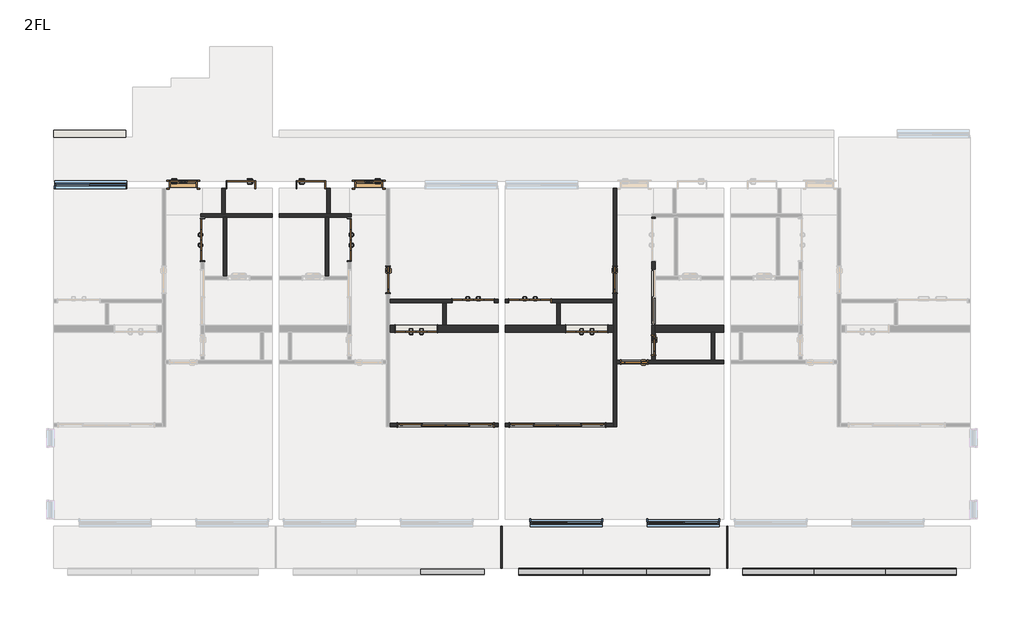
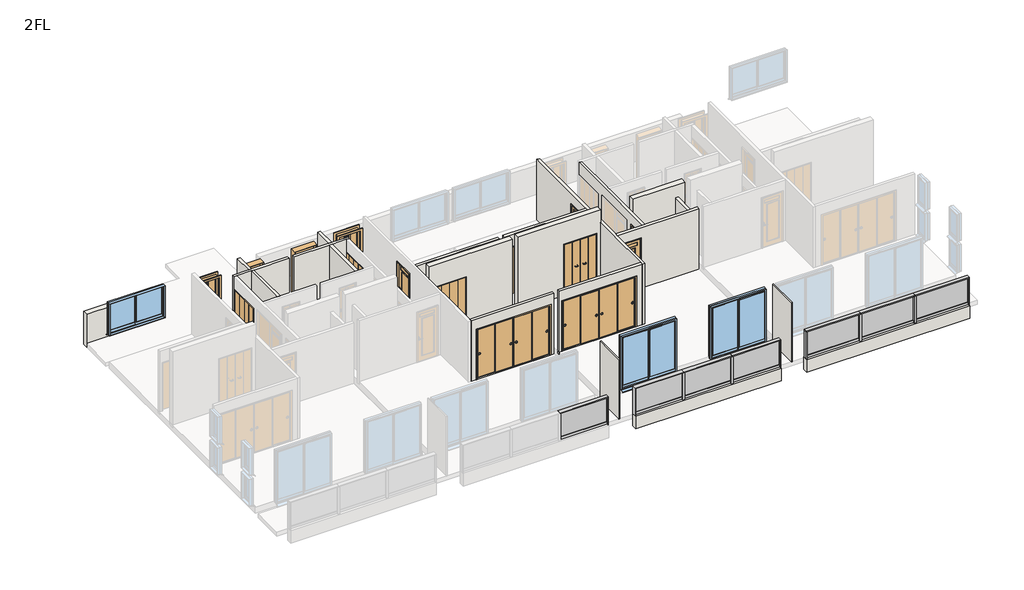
# One storey, part 2 of 3: 24 walls, 16 doors, 16 members, 7 plates, 3 windows.
"""IFC4 building model written with IfcOpenShell, lengths in millimetres."""

from ifc_helpers import new_model, si_unit, frame, origin, place, context, project, spatial, polyline, outline, extrude, faceted_brep, transform, mapped, element, save
from components import door_1200x2000_98cacc9b, door_1200x2000_6a144d60, door_1200x2000_ebe1d490, door_1200x2000_99d19fb3, door_2800x2000_670b855b, door_2800x2000_04aa64cd, door_600x2000_7f2747f4, door_800x2000_a7d1584b, door_800x2000_13e9f519, door_800x2000_ccb03061, door_800x2000_010bfebf, w800h2000_1d97c4d4, w800h2000_0ab7d42c, member_25x150_3f8205e2, member_25x150_e252ec85, member_25x150_8b8be5b9, member_25x150_69a01d83, member_25x150_4c9d34cf, member_70x150_851c8a9b, plate_5aac5250, plate_977e9fc7, plate_28239825, plate_ce56c4f8, window_2000x1200_fc91d1cf, window_2000x2000_f1ff98da

model = new_model("IFC4")

# Units and contexts
model_context = context("Model", 3, world=origin())
ifc_project = project(units=[si_unit("LENGTHUNIT", "METRE", prefix="MILLI")], contexts=[model_context])

# Site, building, storey
site = spatial("IfcSite", under=ifc_project)
building = spatial("IfcBuilding", under=site)
storey = spatial("IfcBuildingStorey", under=building, Name="2FL", Elevation=4000.0)

# Doors
placement = place(None, origin())
door_1200x2000_shape = door_1200x2000_98cacc9b(model_context)
element("IfcDoor", 1, ObjectType="木製折戸 : 1200x2000", at=placement, inside=storey, context=model_context, shape_type="MappedRepresentation", body=[
    mapped(door_1200x2000_shape, transform((4158.7812754, -9820.1171638, 4100.0), x_axis=(-1.0, 0.0, 0.0), y_axis=(0.0, -1.0, 0.0), z_axis=(0.0, 0.0, 1.0))),
])
door_1200x2000_2_shape = door_1200x2000_6a144d60(model_context)
element("IfcDoor", 2, ObjectType="木製折戸 : 1200x2000", at=placement, inside=storey, context=model_context, shape_type="MappedRepresentation", body=[
    mapped(door_1200x2000_2_shape, transform((-6828.7187246, -7280.1171638, 4000.0), x_axis=(0.0, 1.0, 0.0), y_axis=(-1.0, 0.0, 0.0), z_axis=(0.0, 0.0, 1.0))),
])
element("IfcDoor", 3, ObjectType="木製折戸 : 1200x2000", at=placement, inside=storey, context=model_context, shape_type="MappedRepresentation", body=[
    mapped(door_1200x2000_2_shape, transform((2533.7812754, -9020.1171638, 4000.0), x_axis=(1.0, 0.0, 0.0), y_axis=(0.0, 1.0, 0.0), z_axis=(0.0, 0.0, 1.0))),
])
door_1200x2000_3_shape = door_1200x2000_ebe1d490(model_context)
element("IfcDoor", 4, ObjectType="木製折戸 : 1200x2000", at=placement, inside=storey, context=model_context, shape_type="MappedRepresentation", body=[
    mapped(door_1200x2000_3_shape, transform((-716.2187246, -9820.1171638, 4100.0), x_axis=(1.0, 0.0, 0.0), y_axis=(0.0, 1.0, 0.0), z_axis=(0.0, 0.0, 1.0))),
])
door_1200x2000_4_shape = door_1200x2000_99d19fb3(model_context)
element("IfcDoor", 5, ObjectType="木製折戸 : 1200x2000", at=placement, inside=storey, context=model_context, shape_type="MappedRepresentation", body=[
    mapped(door_1200x2000_4_shape, transform((-2628.7187246, -7280.1171638, 4000.0), x_axis=(0.0, 1.0, 0.0), y_axis=(-1.0, 0.0, 0.0), z_axis=(0.0, 0.0, 1.0))),
])
element("IfcDoor", 6, ObjectType="木製折戸 : 1200x2000", at=placement, inside=storey, context=model_context, shape_type="MappedRepresentation", body=[
    mapped(door_1200x2000_4_shape, transform((908.7812754, -9020.1171638, 4000.0), x_axis=(-1.0, 0.0, 0.0), y_axis=(0.0, -1.0, 0.0), z_axis=(0.0, 0.0, 1.0))),
])
door_2800x2000_shape = door_2800x2000_670b855b(model_context)
element("IfcDoor", 7, ObjectType="引違い 4 枚 2 溝_襖 : 2800x2000", at=placement, inside=storey, context=model_context, shape_type="MappedRepresentation", body=[
    mapped(door_2800x2000_shape, transform((3326.8167793, -12570.1171638, 4100.0), x_axis=(1.0, 0.0, 0.0), y_axis=(0.0, 1.0, 0.0), z_axis=(0.0, 0.0, 1.0))),
])
door_2800x2000_2_shape = door_2800x2000_04aa64cd(model_context)
element("IfcDoor", 8, ObjectType="引違い 4 枚 2 溝_襖 : 2800x2000", at=placement, inside=storey, context=model_context, shape_type="MappedRepresentation", body=[
    mapped(door_2800x2000_2_shape, transform((115.7457714, -12570.1171638, 4100.0), x_axis=(-1.0, 0.0, 0.0), y_axis=(0.0, -1.0, 0.0), z_axis=(0.0, 0.0, 1.0))),
])
door_600x2000_shape = door_600x2000_7f2747f4(model_context)
element("IfcDoor", 9, ObjectType="片開き戸CL2058 : 600x2000", at=placement, inside=storey, context=model_context, shape_type="MappedRepresentation", body=[
    mapped(door_600x2000_shape, transform((6071.2812754, -10295.1171638, 4100.0), x_axis=(0.0, -1.0, 0.0), y_axis=(1.0, 0.0, 0.0), z_axis=(0.0, 0.0, 1.0))),
])
door_800x2000_shape = door_800x2000_a7d1584b(model_context)
element("IfcDoor", 10, ObjectType="片開き3 : 800x2000", at=placement, inside=storey, context=model_context, shape_type="MappedRepresentation", body=[
    mapped(door_800x2000_shape, transform((-7378.7187246, -5700.1171638, 4000.0), x_axis=(1.0, 0.0, 0.0), y_axis=(0.0, 1.0, 0.0), z_axis=(0.0, 0.0, 1.0))),
])
door_800x2000_2_shape = door_800x2000_13e9f519(model_context)
element("IfcDoor", 11, ObjectType="片開き戸CL2058 : 800x2000", at=placement, inside=storey, context=model_context, shape_type="MappedRepresentation", body=[
    mapped(door_800x2000_2_shape, transform((4971.2812754, -8420.1171638, 4100.0), x_axis=(0.0, -1.0, 0.0), y_axis=(1.0, 0.0, 0.0), z_axis=(0.0, 0.0, 1.0))),
])
door_800x2000_3_shape = door_800x2000_ccb03061(model_context)
element("IfcDoor", 12, ObjectType="片開き戸CL2058 : 800x2000", at=placement, inside=storey, context=model_context, shape_type="MappedRepresentation", body=[
    mapped(door_800x2000_3_shape, transform((-1528.7187246, -8420.1171638, 4100.0), x_axis=(0.0, -1.0, 0.0), y_axis=(1.0, 0.0, 0.0), z_axis=(0.0, 0.0, 1.0))),
])
element("IfcDoor", 13, ObjectType="片開き戸CL2058 : 800x2000", at=placement, inside=storey, context=model_context, shape_type="MappedRepresentation", body=[
    mapped(door_800x2000_3_shape, transform((5521.2812754, -10770.1171638, 4100.0), x_axis=(-1.0, 0.0, 0.0), y_axis=(0.0, -1.0, 0.0), z_axis=(0.0, 0.0, 1.0))),
])
door_800x2000_4_shape = door_800x2000_010bfebf(model_context)
element("IfcDoor", 14, ObjectType="片開き3 : 800x2000", at=placement, inside=storey, context=model_context, shape_type="MappedRepresentation", body=[
    mapped(door_800x2000_4_shape, transform((-2078.7187246, -5700.1171638, 4000.0), x_axis=(-1.0, 0.0, 0.0), y_axis=(0.0, -1.0, 0.0), z_axis=(0.0, 0.0, 1.0))),
])
w800h2000_shape = w800h2000_1d97c4d4(model_context)
element("IfcDoor", 15, ObjectType="片開き : w800h2000", at=placement, inside=storey, context=model_context, shape_type="MappedRepresentation", body=[
    mapped(w800h2000_shape, transform((-5728.7187246, -5700.1171638, 4000.0), x_axis=(-1.0, 0.0, 0.0), y_axis=(0.0, -1.0, 0.0), z_axis=(0.0, 0.0, 1.0))),
])
w800h2000_2_shape = w800h2000_0ab7d42c(model_context)
element("IfcDoor", 16, ObjectType="片開き : w800h2000", at=placement, inside=storey, context=model_context, shape_type="MappedRepresentation", body=[
    mapped(w800h2000_2_shape, transform((-3728.7187246, -5700.1171638, 4000.0), x_axis=(1.0, 0.0, 0.0), y_axis=(0.0, 1.0, 0.0), z_axis=(0.0, 0.0, 1.0))),
])

# Members
member_25x150_shape = member_25x150_3f8205e2(model_context)
element("IfcMember", 17, ObjectType="長方形のマリオン : 25x150", at=placement, inside=storey, context=model_context, shape_type="MappedRepresentation", body=[
    mapped(member_25x150_shape, transform((1221.2812754, -16770.1171638, 4000.0), x_axis=(1.0, 0.0, 0.0), y_axis=(0.0, -1.0, 0.0), z_axis=(0.0, 0.0, -1.0))),
])
element("IfcMember", 18, ObjectType="長方形のマリオン : 25x150", at=placement, inside=storey, context=model_context, shape_type="MappedRepresentation", body=[
    mapped(member_25x150_shape, transform((7671.2812754, -16770.1171638, 4000.0), x_axis=(1.0, 0.0, 0.0), y_axis=(0.0, -1.0, 0.0), z_axis=(0.0, 0.0, -1.0))),
])
element("IfcMember", 19, ObjectType="長方形のマリオン : 25x150", at=placement, inside=storey, context=model_context, shape_type="MappedRepresentation", body=[
    mapped(member_25x150_shape, transform((14721.2812754, -16770.1171638, 4000.0), x_axis=(1.0, 0.0, 0.0), y_axis=(0.0, -1.0, 0.0), z_axis=(0.0, 0.0, -1.0))),
])
element("IfcMember", 20, ObjectType="長方形のマリオン : 25x150", at=placement, inside=storey, context=model_context, shape_type="MappedRepresentation", body=[
    mapped(member_25x150_shape, transform((2221.2812754, -16770.1171638, 5075.0), x_axis=(-1.0, 0.0, 0.0), y_axis=(0.0, -1.0, 0.0), z_axis=(0.0, 0.0, 1.0))),
])
element("IfcMember", 21, ObjectType="長方形のマリオン : 25x150", at=placement, inside=storey, context=model_context, shape_type="MappedRepresentation", body=[
    mapped(member_25x150_shape, transform((8621.2812754, -16770.1171638, 5075.0), x_axis=(-1.0, 0.0, 0.0), y_axis=(0.0, -1.0, 0.0), z_axis=(0.0, 0.0, 1.0))),
])
member_25x150_2_shape = member_25x150_e252ec85(model_context)
element("IfcMember", 22, ObjectType="長方形のマリオン : 25x150", at=placement, inside=storey, context=model_context, shape_type="MappedRepresentation", body=[
    mapped(member_25x150_2_shape, transform((1221.2812754, -16770.1171638, 5100.0), x_axis=(0.0, 0.0, 1.0), y_axis=(0.0, -1.0, 0.0), z_axis=(1.0, 0.0, 0.0))),
])
element("IfcMember", 23, ObjectType="長方形のマリオン : 25x150", at=placement, inside=storey, context=model_context, shape_type="MappedRepresentation", body=[
    mapped(member_25x150_2_shape, transform((7671.2812754, -16770.1171638, 5100.0), x_axis=(0.0, 0.0, 1.0), y_axis=(0.0, -1.0, 0.0), z_axis=(1.0, 0.0, 0.0))),
])
element("IfcMember", 24, ObjectType="長方形のマリオン : 25x150", at=placement, inside=storey, context=model_context, shape_type="MappedRepresentation", body=[
    mapped(member_25x150_2_shape, transform((4037.9479421, -16770.1171638, 5100.0), x_axis=(0.0, 0.0, 1.0), y_axis=(0.0, -1.0, 0.0), z_axis=(1.0, 0.0, 0.0))),
])
member_25x150_3_shape = member_25x150_8b8be5b9(model_context)
element("IfcMember", 25, ObjectType="長方形のマリオン : 25x150", at=placement, inside=storey, context=model_context, shape_type="MappedRepresentation", body=[
    mapped(member_25x150_3_shape, transform((5854.6146086, -16770.1171638, 5100.0), x_axis=(0.0, 0.0, 1.0), y_axis=(0.0, -1.0, 0.0), z_axis=(1.0, 0.0, 0.0))),
])
member_25x150_4_shape = member_25x150_69a01d83(model_context)
element("IfcMember", 26, ObjectType="長方形のマリオン : 25x150", at=placement, inside=storey, context=model_context, shape_type="MappedRepresentation", body=[
    mapped(member_25x150_4_shape, transform((14721.2812754, -16770.1171638, 5100.0), x_axis=(0.0, 0.0, 1.0), y_axis=(0.0, -1.0, 0.0), z_axis=(1.0, 0.0, 0.0))),
])
element("IfcMember", 27, ObjectType="長方形のマリオン : 25x150", at=placement, inside=storey, context=model_context, shape_type="MappedRepresentation", body=[
    mapped(member_25x150_4_shape, transform((10654.6146088, -16770.1171638, 5100.0), x_axis=(0.0, 0.0, 1.0), y_axis=(0.0, -1.0, 0.0), z_axis=(1.0, 0.0, 0.0))),
])
member_25x150_5_shape = member_25x150_4c9d34cf(model_context)
element("IfcMember", 28, ObjectType="長方形のマリオン : 25x150", at=placement, inside=storey, context=model_context, shape_type="MappedRepresentation", body=[
    mapped(member_25x150_5_shape, transform((12687.9479419, -16770.1171638, 5100.0), x_axis=(0.0, 0.0, 1.0), y_axis=(0.0, -1.0, 0.0), z_axis=(1.0, 0.0, 0.0))),
])
member_70x150_shape = member_70x150_851c8a9b(model_context)
element("IfcMember", 29, ObjectType="長方形のマリオン : 70x150", at=placement, inside=storey, context=model_context, shape_type="MappedRepresentation", body=[
    mapped(member_70x150_shape, transform((4037.9479421, -16770.1171638, 4000.0), x_axis=(1.0, 0.0, 0.0), y_axis=(0.0, -1.0, 0.0), z_axis=(0.0, 0.0, -1.0))),
])
element("IfcMember", 30, ObjectType="長方形のマリオン : 70x150", at=placement, inside=storey, context=model_context, shape_type="MappedRepresentation", body=[
    mapped(member_70x150_shape, transform((5854.6146086, -16770.1171638, 4000.0), x_axis=(1.0, 0.0, 0.0), y_axis=(0.0, -1.0, 0.0), z_axis=(0.0, 0.0, -1.0))),
])
element("IfcMember", 31, ObjectType="長方形のマリオン : 70x150", at=placement, inside=storey, context=model_context, shape_type="MappedRepresentation", body=[
    mapped(member_70x150_shape, transform((10654.6146088, -16770.1171638, 4000.0), x_axis=(1.0, 0.0, 0.0), y_axis=(0.0, -1.0, 0.0), z_axis=(0.0, 0.0, -1.0))),
])
element("IfcMember", 32, ObjectType="長方形のマリオン : 70x150", at=placement, inside=storey, context=model_context, shape_type="MappedRepresentation", body=[
    mapped(member_70x150_shape, transform((12687.9479419, -16770.1171638, 4000.0), x_axis=(1.0, 0.0, 0.0), y_axis=(0.0, -1.0, 0.0), z_axis=(0.0, 0.0, -1.0))),
])

# Plates
plate_shape = plate_5aac5250(model_context)
element("IfcPlate", 33, ObjectType="r パネル FIX 下框付 : 框 H100", at=placement, inside=storey, context=model_context, shape_type="MappedRepresentation", body=[
    mapped(plate_shape, transform((317.947942, -16770.1171638, 4000.0), x_axis=(1.0, 0.0, 0.0), y_axis=(0.0, 1.0, 0.0), z_axis=(0.0, 0.0, 1.0))),
])
element("IfcPlate", 34, ObjectType="r パネル FIX 下框付 : 框 H100", at=placement, inside=storey, context=model_context, shape_type="MappedRepresentation", body=[
    mapped(plate_shape, transform((3124.6146087, -16770.1171638, 4000.0), x_axis=(1.0, 0.0, 0.0), y_axis=(0.0, 1.0, 0.0), z_axis=(0.0, 0.0, 1.0))),
])
element("IfcPlate", 35, ObjectType="r パネル FIX 下框付 : 框 H100", at=placement, inside=storey, context=model_context, shape_type="MappedRepresentation", body=[
    mapped(plate_shape, transform((6767.947942, -16770.1171638, 4000.0), x_axis=(1.0, 0.0, 0.0), y_axis=(0.0, 1.0, 0.0), z_axis=(0.0, 0.0, 1.0))),
])
plate_2_shape = plate_977e9fc7(model_context)
element("IfcPlate", 36, ObjectType="r パネル FIX 下框付 : 框 H100", at=placement, inside=storey, context=model_context, shape_type="MappedRepresentation", body=[
    mapped(plate_2_shape, transform((4946.2812754, -16770.1171638, 4000.0), x_axis=(1.0, 0.0, 0.0), y_axis=(0.0, 1.0, 0.0), z_axis=(0.0, 0.0, 1.0))),
])
plate_3_shape = plate_28239825(model_context)
element("IfcPlate", 37, ObjectType="r パネル FIX 下框付 : 框 H100", at=placement, inside=storey, context=model_context, shape_type="MappedRepresentation", body=[
    mapped(plate_3_shape, transform((9632.9479421, -16770.1171638, 4000.0), x_axis=(1.0, 0.0, 0.0), y_axis=(0.0, 1.0, 0.0), z_axis=(0.0, 0.0, 1.0))),
])
element("IfcPlate", 38, ObjectType="r パネル FIX 下框付 : 框 H100", at=placement, inside=storey, context=model_context, shape_type="MappedRepresentation", body=[
    mapped(plate_3_shape, transform((13709.6146086, -16770.1171638, 4000.0), x_axis=(1.0, 0.0, 0.0), y_axis=(0.0, 1.0, 0.0), z_axis=(0.0, 0.0, 1.0))),
])
plate_4_shape = plate_ce56c4f8(model_context)
element("IfcPlate", 39, ObjectType="r パネル FIX 下框付 : 框 H100", at=placement, inside=storey, context=model_context, shape_type="MappedRepresentation", body=[
    mapped(plate_4_shape, transform((11671.2812754, -16770.1171638, 4000.0), x_axis=(1.0, 0.0, 0.0), y_axis=(0.0, 1.0, 0.0), z_axis=(0.0, 0.0, 1.0))),
])

# Walls
element("IfcWall", 40, ObjectType="(R)RC200", at=placement, inside=storey, context=model_context, shape_type="Brep", body=[
    faceted_brep([(1621.2812754, -9720.1171638, 4000.0), (146.2812754, -9720.1171638, 4000.0), (46.2812754, -9720.1171638, 4000.0), (-1478.7187246, -9720.1171638, 4000.0), (-1478.7187246, -9720.1171638, 7000.0), (1621.2812754, -9720.1171638, 7000.0), (-96.2187246, -9720.1171638, 6120.0), (-1336.2187246, -9720.1171638, 6120.0), (-1336.2187246, -9720.1171638, 4100.0), (-96.2187246, -9720.1171638, 4100.0), (1621.2812754, -9920.1171638, 4000.0), (1621.2812754, -9920.1171638, 7000.0), (-1478.7187246, -9920.1171638, 7000.0), (-1478.7187246, -9920.1171638, 4000.0), (-96.2187246, -9920.1171638, 6120.0), (-96.2187246, -9920.1171638, 4100.0), (-1336.2187246, -9920.1171638, 4100.0), (-1336.2187246, -9920.1171638, 6120.0)], [[[0, 1, 2, 3, 4, 5], [6, 7, 8, 9]], [[10, 11, 12, 13], [14, 15, 16, 17]], [[3, 2, 1, 0, 10, 13]], [[5, 4, 12, 11]], [[15, 14, 6, 9]], [[16, 15, 9, 8]], [[17, 16, 8, 7]], [[14, 17, 7, 6]], [[4, 3, 13, 12]], [[0, 5, 11, 10]]]),
])
element("IfcWall", 41, ObjectType="(R)RC200", at=placement, inside=storey, context=model_context, shape_type="Brep", body=[
    faceted_brep([(1821.2812754, -9920.1171638, 4000.0), (4921.2812754, -9920.1171638, 4000.0), (4921.2812754, -9920.1171638, 7000.0), (1821.2812754, -9920.1171638, 7000.0), (3538.7812754, -9920.1171638, 6120.0), (4778.7812754, -9920.1171638, 6120.0), (4778.7812754, -9920.1171638, 4100.0), (3538.7812754, -9920.1171638, 4100.0), (1821.2812754, -9720.1171638, 4000.0), (1821.2812754, -9720.1171638, 7000.0), (4921.2812754, -9720.1171638, 7000.0), (4921.2812754, -9720.1171638, 4000.0), (3396.2812754, -9720.1171638, 4000.0), (3296.2812754, -9720.1171638, 4000.0), (3538.7812754, -9720.1171638, 6120.0), (3538.7812754, -9720.1171638, 4100.0), (4778.7812754, -9720.1171638, 4100.0), (4778.7812754, -9720.1171638, 6120.0)], [[[0, 1, 2, 3], [4, 5, 6, 7]], [[8, 9, 10, 11, 12, 13], [14, 15, 16, 17]], [[1, 0, 8, 13, 12, 11]], [[3, 2, 10, 9]], [[15, 14, 4, 7]], [[16, 15, 7, 6]], [[17, 16, 6, 5]], [[14, 17, 5, 4]], [[2, 1, 11, 10]], [[0, 3, 9, 8]]]),
])
element("IfcWall", 42, ObjectType="(R)RC200", at=placement, inside=storey, context=model_context, shape_type="Brep", body=[
    faceted_brep([(6121.2812754, -9920.1171638, 4000.0), (7721.2812754, -9920.1171638, 4000.0), (7821.2812754, -9920.1171638, 4000.0), (8071.2812754, -9920.1171638, 4000.0), (8071.2812754, -9920.1171638, 7000.0), (6121.2812754, -9920.1171638, 7000.0), (6121.2812754, -9720.1171638, 4000.0), (6121.2812754, -9720.1171638, 4100.0), (6121.2812754, -9720.1171638, 6100.0), (6121.2812754, -9720.1171638, 7000.0), (8071.2812754, -9720.1171638, 7000.0), (8071.2812754, -9720.1171638, 4000.0)], [[[0, 1, 2, 3, 4, 5]], [[6, 7, 8, 9, 10, 11]], [[3, 2, 1, 0, 6, 11]], [[5, 4, 10, 9]], [[0, 5, 9, 8, 7, 6]], [[4, 3, 11, 10]]]),
])
element("IfcWall", 43, ObjectType="(R)RC200", at=placement, inside=storey, context=model_context, shape_type="Brep", body=[
    faceted_brep([(-11078.7187246, -4350.1171638, 3800.0), (-9028.7187246, -4350.1171638, 3800.0), (-9028.7187246, -4350.1171638, 5068.2352941), (-9028.7187246, -4350.1171638, 5100.0), (-11078.7187246, -4350.1171638, 5100.0), (-11078.7187246, -4150.1171638, 3800.0), (-11078.7187246, -4150.1171638, 5100.0), (-9028.7187246, -4150.1171638, 5100.0), (-9028.7187246, -4150.1171638, 3800.0)], [[[0, 1, 2, 3, 4]], [[5, 6, 7, 8]], [[1, 0, 5, 8]], [[4, 3, 7, 6]], [[0, 4, 6, 5]], [[3, 2, 1, 8, 7]]]),
])
element("IfcWall", 44, ObjectType="(R)RC200", at=placement, inside=storey, context=model_context, shape_type="SweptSolid", body=[
    extrude(outline(polyline([(7671.2812754, -16870.1171638), (2221.2812754, -16870.1171638), (2221.2812754, -16670.1171638), (7671.2812754, -16670.1171638), (7671.2812754, -16870.1171638)])), frame((0.0, 0.0, 3500.0), z_axis=(0.0, 0.0, 1.0), x_axis=(1.0, 0.0, 0.0)), (0.0, 0.0, 1.0), 500.0),
])
element("IfcWall", 45, ObjectType="(R)RC200", at=placement, inside=storey, context=model_context, shape_type="SweptSolid", body=[
    extrude(outline(polyline([(14721.2812754, -16870.1171638), (8621.2812754, -16870.1171638), (8621.2812754, -16670.1171638), (14721.2812754, -16670.1171638), (14721.2812754, -16870.1171638)])), frame((0.0, 0.0, 3500.0), z_axis=(0.0, 0.0, 1.0), x_axis=(1.0, 0.0, 0.0)), (0.0, 0.0, 1.0), 500.0),
])
element("IfcWall", 46, ObjectType="(F)30", at=placement, inside=storey, context=model_context, shape_type="SweptSolid", body=[
    extrude(outline(polyline([(1706.2812754, -16670.1171638), (1706.2812754, -15470.1171638), (1736.2812754, -15470.1171638), (1736.2812754, -16670.1171638), (1706.2812754, -16670.1171638)])), frame((0.0, 0.0, 3950.0), z_axis=(0.0, 0.0, 1.0), x_axis=(1.0, 0.0, 0.0)), (0.0, 0.0, 1.0), 2350.0),
])
element("IfcWall", 47, ObjectType="(F)30", at=placement, inside=storey, context=model_context, shape_type="SweptSolid", body=[
    extrude(outline(polyline([(8156.2812754, -16670.1171638), (8156.2812754, -15470.1171638), (8186.2812754, -15470.1171638), (8186.2812754, -16670.1171638), (8156.2812754, -16670.1171638)])), frame((0.0, 0.0, 3950.0), z_axis=(0.0, 0.0, 1.0), x_axis=(1.0, 0.0, 0.0)), (0.0, 0.0, 1.0), 2350.0),
])
element("IfcWall", 48, ObjectType="(L1)LGS100", at=placement, inside=storey, context=model_context, shape_type="Brep", body=[
    faceted_brep([(-6878.7187246, -6630.1171638, 4000.0), (-6778.7187246, -6630.1171638, 4000.0), (-6238.7187246, -6630.1171638, 4000.0), (-6138.7187246, -6630.1171638, 4000.0), (-4828.7187246, -6630.1171638, 4000.0), (-4828.7187246, -6630.1171638, 6500.0), (-6138.7187246, -6630.1171638, 6500.0), (-6238.7187246, -6630.1171638, 6500.0), (-6778.7187246, -6630.1171638, 6500.0), (-6878.7187246, -6630.1171638, 6500.0), (-6878.7187246, -6530.1171638, 4000.0), (-6878.7187246, -6530.1171638, 6500.0), (-6278.7187246, -6530.1171638, 6500.0), (-6178.7187246, -6530.1171638, 6500.0), (-4828.7187246, -6530.1171638, 6500.0), (-4828.7187246, -6530.1171638, 4000.0), (-6178.7187246, -6530.1171638, 4000.0), (-6278.7187246, -6530.1171638, 4000.0)], [[[0, 1, 2, 3, 4, 5, 6, 7, 8, 9]], [[10, 11, 12, 13, 14, 15, 16, 17]], [[4, 3, 2, 1, 0, 10, 17, 16, 15]], [[9, 8, 7, 6, 5, 14, 13, 12, 11]], [[0, 9, 11, 10]], [[5, 4, 15, 14]]]),
])
element("IfcWall", 49, ObjectType="(L1)LGS100", at=placement, inside=storey, context=model_context, shape_type="SweptSolid", body=[
    extrude(outline(polyline([(-6178.7187246, -5800.1171638), (-6178.7187246, -6530.1171638), (-6278.7187246, -6530.1171638), (-6278.7187246, -5800.1171638), (-6178.7187246, -5800.1171638)])), frame((0.0, 0.0, 4000.0), z_axis=(0.0, 0.0, 1.0), x_axis=(1.0, 0.0, 0.0)), (0.0, 0.0, 1.0), 2500.0),
])
element("IfcWall", 50, ObjectType="(L1)LGS100", at=placement, inside=storey, context=model_context, shape_type="SweptSolid", body=[
    extrude(outline(polyline([(-6138.7187246, -6630.1171638), (-6138.7187246, -8320.1171638), (-6238.7187246, -8320.1171638), (-6238.7187246, -6630.1171638), (-6138.7187246, -6630.1171638)])), frame((0.0, 0.0, 4000.0), z_axis=(0.0, 0.0, 1.0), x_axis=(1.0, 0.0, 0.0)), (0.0, 0.0, 1.0), 2500.0),
])
element("IfcWall", 51, ObjectType="(L1)LGS100", at=placement, inside=storey, context=model_context, shape_type="Brep", body=[
    faceted_brep([(-2578.7187246, -6530.1171638, 4000.0), (-3178.7187246, -6530.1171638, 4000.0), (-3278.7187246, -6530.1171638, 4000.0), (-4628.7187246, -6530.1171638, 4000.0), (-4628.7187246, -6530.1171638, 6500.0), (-3278.7187246, -6530.1171638, 6500.0), (-3178.7187246, -6530.1171638, 6500.0), (-2578.7187246, -6530.1171638, 6500.0), (-2578.7187246, -6630.1171638, 4000.0), (-2578.7187246, -6630.1171638, 6500.0), (-2678.7187246, -6630.1171638, 6500.0), (-3218.7187246, -6630.1171638, 6500.0), (-3318.7187246, -6630.1171638, 6500.0), (-4628.7187246, -6630.1171638, 6500.0), (-4628.7187246, -6630.1171638, 4000.0), (-3318.7187246, -6630.1171638, 4000.0), (-3218.7187246, -6630.1171638, 4000.0), (-2678.7187246, -6630.1171638, 4000.0)], [[[0, 1, 2, 3, 4, 5, 6, 7]], [[8, 9, 10, 11, 12, 13, 14, 15, 16, 17]], [[3, 2, 1, 0, 8, 17, 16, 15, 14]], [[7, 6, 5, 4, 13, 12, 11, 10, 9]], [[0, 7, 9, 8]], [[4, 3, 14, 13]]]),
])
element("IfcWall", 52, ObjectType="(L1)LGS100", at=placement, inside=storey, context=model_context, shape_type="SweptSolid", body=[
    extrude(outline(polyline([(-3178.7187246, -5800.1171638), (-3178.7187246, -6530.1171638), (-3278.7187246, -6530.1171638), (-3278.7187246, -5800.1171638), (-3178.7187246, -5800.1171638)])), frame((0.0, 0.0, 4000.0), z_axis=(0.0, 0.0, 1.0), x_axis=(1.0, 0.0, 0.0)), (0.0, 0.0, 1.0), 2500.0),
])
element("IfcWall", 53, ObjectType="(L1)LGS100", at=placement, inside=storey, context=model_context, shape_type="SweptSolid", body=[
    extrude(outline(polyline([(-3218.7187246, -6630.1171638), (-3218.7187246, -8320.1171638), (-3318.7187246, -8320.1171638), (-3318.7187246, -6630.1171638), (-3218.7187246, -6630.1171638)])), frame((0.0, 0.0, 4000.0), z_axis=(0.0, 0.0, 1.0), x_axis=(1.0, 0.0, 0.0)), (0.0, 0.0, 1.0), 2500.0),
])
element("IfcWall", 54, ObjectType="(L1)LGS100", at=placement, inside=storey, context=model_context, shape_type="Brep", body=[
    faceted_brep([(1621.2812754, -8970.1171638, 4000.0), (1528.7812754, -8970.1171638, 4000.0), (1528.7812754, -8970.1171638, 6020.0), (288.7812754, -8970.1171638, 6020.0), (288.7812754, -8970.1171638, 4000.0), (-1478.7187246, -8970.1171638, 4000.0), (-1478.7187246, -8970.1171638, 6500.0), (1621.2812754, -8970.1171638, 6500.0), (1528.7812754, -9070.1171638, 6020.0), (1528.7812754, -9070.1171638, 4000.0), (1621.2812754, -9070.1171638, 4000.0), (1621.2812754, -9070.1171638, 6500.0), (146.2812754, -9070.1171638, 6500.0), (46.2812754, -9070.1171638, 6500.0), (-1478.7187246, -9070.1171638, 6500.0), (-1478.7187246, -9070.1171638, 4000.0), (46.2812754, -9070.1171638, 4000.0), (146.2812754, -9070.1171638, 4000.0), (288.7812754, -9070.1171638, 4000.0), (288.7812754, -9070.1171638, 6020.0)], [[[0, 1, 2, 3, 4, 5, 6, 7]], [[8, 9, 10, 11, 12, 13, 14, 15, 16, 17, 18, 19]], [[10, 9, 1, 0]], [[18, 17, 16, 15, 5, 4]], [[7, 6, 14, 13, 12, 11]], [[4, 3, 19, 18]], [[2, 1, 9, 8]], [[3, 2, 8, 19]], [[6, 5, 15, 14]], [[0, 7, 11, 10]]]),
])
element("IfcWall", 55, ObjectType="(L1)LGS100", at=placement, inside=storey, context=model_context, shape_type="SweptSolid", body=[
    extrude(outline(polyline([(146.2812754, -9070.1171638), (146.2812754, -9720.1171638), (46.2812754, -9720.1171638), (46.2812754, -9070.1171638), (146.2812754, -9070.1171638)])), frame((0.0, 0.0, 4000.0), z_axis=(0.0, 0.0, 1.0), x_axis=(1.0, 0.0, 0.0)), (0.0, 0.0, 1.0), 2500.0),
])
element("IfcWall", 56, ObjectType="(L1)LGS100", at=placement, inside=storey, context=model_context, shape_type="SweptSolid", body=[
    extrude(outline(polyline([(4000.0, 1621.2812754), (6500.0, 1621.2812754), (6500.0, -1478.7187246), (4000.0, -1478.7187246), (4000.0, 1621.2812754)]), holes=[polyline([(6100.0, -1278.7187246), (6100.0, 1521.2812754), (4100.0, 1521.2812754), (4100.0, -1278.7187246), (6100.0, -1278.7187246)])]), frame((0.0, -12620.1171638, 0.0), z_axis=(0.0, 1.0, 0.0), x_axis=(0.0, 0.0, 1.0)), (0.0, 0.0, 1.0), 100.0),
])
element("IfcWall", 57, ObjectType="(L1)LGS100", at=placement, inside=storey, context=model_context, shape_type="Brep", body=[
    faceted_brep([(5021.2812754, -12620.1171638, 4000.0), (5021.2812754, -10820.1171638, 4000.0), (5021.2812754, -10720.1171638, 4000.0), (5021.2812754, -5800.1171638, 4000.0), (5021.2812754, -5800.1171638, 6500.0), (5021.2812754, -10720.1171638, 6500.0), (5021.2812754, -10820.1171638, 6500.0), (5021.2812754, -12620.1171638, 6500.0), (5021.2812754, -8820.1171638, 4100.0), (5021.2812754, -8820.1171638, 6100.0), (5021.2812754, -8020.1171638, 6100.0), (5021.2812754, -8020.1171638, 4100.0), (4921.2812754, -12620.1171638, 4000.0), (4921.2812754, -12620.1171638, 6500.0), (4921.2812754, -12520.1171638, 6500.0), (4921.2812754, -9070.1171638, 6500.0), (4921.2812754, -8970.1171638, 6500.0), (4921.2812754, -5800.1171638, 6500.0), (4921.2812754, -5800.1171638, 4000.0), (4921.2812754, -8970.1171638, 4000.0), (4921.2812754, -9070.1171638, 4000.0), (4921.2812754, -9720.1171638, 4000.0), (4921.2812754, -9920.1171638, 4000.0), (4921.2812754, -12520.1171638, 4000.0), (4921.2812754, -8820.1171638, 4100.0), (4921.2812754, -8020.1171638, 4100.0), (4921.2812754, -8020.1171638, 6100.0), (4921.2812754, -8820.1171638, 6100.0)], [[[0, 1, 2, 3, 4, 5, 6, 7], [8, 9, 10, 11]], [[12, 13, 14, 15, 16, 17, 18, 19, 20, 21, 22, 23], [24, 25, 26, 27]], [[3, 2, 1, 0, 12, 23, 22, 21, 20, 19, 18]], [[7, 6, 5, 4, 17, 16, 15, 14, 13]], [[9, 8, 24, 27]], [[10, 9, 27, 26]], [[11, 10, 26, 25]], [[8, 11, 25, 24]], [[0, 7, 13, 12]], [[4, 3, 18, 17]]]),
])
element("IfcWall", 58, ObjectType="(L1)LGS100", at=placement, inside=storey, context=model_context, shape_type="Brep", body=[
    faceted_brep([(6121.2812754, -6630.1171638, 6500.0), (6121.2812754, -8320.1171638, 6500.0), (6121.2812754, -8420.1171638, 6500.0), (6121.2812754, -10720.1171638, 6500.0), (6121.2812754, -10720.1171638, 4000.0), (6121.2812754, -9920.1171638, 4000.0), (6121.2812754, -9720.1171638, 4000.0), (6121.2812754, -8420.1171638, 4000.0), (6121.2812754, -8320.1171638, 4000.0), (6121.2812754, -7900.1171638, 4000.0), (6121.2812754, -7900.1171638, 6020.0), (6121.2812754, -6660.1171638, 6020.0), (6121.2812754, -6660.1171638, 4000.0), (6121.2812754, -6630.1171638, 4000.0), (6121.2812754, -10595.1171638, 4100.0), (6121.2812754, -10595.1171638, 6100.0), (6121.2812754, -9995.1171638, 6100.0), (6121.2812754, -9995.1171638, 4100.0), (6121.2812754, -9720.1171638, 4100.0), (6121.2812754, -9720.1171638, 6100.0), (6121.2812754, -8120.1171638, 6100.0), (6121.2812754, -8120.1171638, 4100.0), (6021.2812754, -10720.1171638, 6500.0), (6021.2812754, -6630.1171638, 6500.0), (6021.2812754, -6630.1171638, 4000.0), (6021.2812754, -6660.1171638, 4000.0), (6021.2812754, -6660.1171638, 6020.0), (6021.2812754, -7900.1171638, 6020.0), (6021.2812754, -7900.1171638, 4000.0), (6021.2812754, -10720.1171638, 4000.0), (6021.2812754, -10595.1171638, 4100.0), (6021.2812754, -9995.1171638, 4100.0), (6021.2812754, -9995.1171638, 6100.0), (6021.2812754, -10595.1171638, 6100.0), (6021.2812754, -9720.1171638, 6100.0), (6021.2812754, -9720.1171638, 4100.0), (6021.2812754, -8120.1171638, 4100.0), (6021.2812754, -8120.1171638, 6100.0)], [[[0, 1, 2, 3, 4, 5, 6, 7, 8, 9, 10, 11, 12, 13], [14, 15, 16, 17], [18, 19, 20, 21]], [[22, 23, 24, 25, 26, 27, 28, 29], [30, 31, 32, 33], [34, 35, 36, 37]], [[12, 25, 24, 13]], [[28, 9, 8, 7, 6, 5, 4, 29]], [[3, 2, 1, 0, 23, 22]], [[15, 14, 30, 33]], [[16, 15, 33, 32]], [[17, 16, 32, 31]], [[14, 17, 31, 30]], [[18, 35, 34, 19]], [[19, 34, 37, 20]], [[20, 37, 36, 21]], [[35, 18, 21, 36]], [[12, 11, 26, 25]], [[10, 9, 28, 27]], [[11, 10, 27, 26]], [[4, 3, 22, 29]], [[0, 13, 24, 23]]]),
])
element("IfcWall", 59, ObjectType="(L1)LGS100", at=placement, inside=storey, context=model_context, shape_type="Brep", body=[
    faceted_brep([(5021.2812754, -10820.1171638, 4000.0), (8071.2812754, -10820.1171638, 4000.0), (8071.2812754, -10820.1171638, 6500.0), (5021.2812754, -10820.1171638, 6500.0), (5121.2812754, -10820.1171638, 4100.0), (5121.2812754, -10820.1171638, 6100.0), (5921.2812754, -10820.1171638, 6100.0), (5921.2812754, -10820.1171638, 4100.0), (5021.2812754, -10720.1171638, 4000.0), (5021.2812754, -10720.1171638, 6500.0), (6021.2812754, -10720.1171638, 6500.0), (6121.2812754, -10720.1171638, 6500.0), (7721.2812754, -10720.1171638, 6500.0), (7821.2812754, -10720.1171638, 6500.0), (8071.2812754, -10720.1171638, 6500.0), (8071.2812754, -10720.1171638, 4000.0), (7821.2812754, -10720.1171638, 4000.0), (7721.2812754, -10720.1171638, 4000.0), (6121.2812754, -10720.1171638, 4000.0), (6021.2812754, -10720.1171638, 4000.0), (5121.2812754, -10720.1171638, 4100.0), (5921.2812754, -10720.1171638, 4100.0), (5921.2812754, -10720.1171638, 6100.0), (5121.2812754, -10720.1171638, 6100.0)], [[[0, 1, 2, 3], [4, 5, 6, 7]], [[8, 9, 10, 11, 12, 13, 14, 15, 16, 17, 18, 19], [20, 21, 22, 23]], [[1, 0, 8, 19, 18, 17, 16, 15]], [[3, 2, 14, 13, 12, 11, 10, 9]], [[5, 4, 20, 23]], [[6, 5, 23, 22]], [[7, 6, 22, 21]], [[4, 7, 21, 20]], [[0, 3, 9, 8]], [[2, 1, 15, 14]]]),
])
element("IfcWall", 60, ObjectType="(L1)LGS100", at=placement, inside=storey, context=model_context, shape_type="SweptSolid", body=[
    extrude(outline(polyline([(7821.2812754, -9920.1171638), (7821.2812754, -10720.1171638), (7721.2812754, -10720.1171638), (7721.2812754, -9920.1171638), (7821.2812754, -9920.1171638)])), frame((0.0, 0.0, 4000.0), z_axis=(0.0, 0.0, 1.0), x_axis=(1.0, 0.0, 0.0)), (0.0, 0.0, 1.0), 2500.0),
])
element("IfcWall", 61, ObjectType="(L1)LGS100", at=placement, inside=storey, context=model_context, shape_type="Brep", body=[
    faceted_brep([(1821.2812754, -9070.1171638, 4000.0), (1913.7812754, -9070.1171638, 4000.0), (1913.7812754, -9070.1171638, 6020.0), (3153.7812754, -9070.1171638, 6020.0), (3153.7812754, -9070.1171638, 4000.0), (3296.2812754, -9070.1171638, 4000.0), (3396.2812754, -9070.1171638, 4000.0), (4921.2812754, -9070.1171638, 4000.0), (4921.2812754, -9070.1171638, 6500.0), (3396.2812754, -9070.1171638, 6500.0), (3296.2812754, -9070.1171638, 6500.0), (1821.2812754, -9070.1171638, 6500.0), (1913.7812754, -8970.1171638, 6020.0), (1913.7812754, -8970.1171638, 4000.0), (1821.2812754, -8970.1171638, 4000.0), (1821.2812754, -8970.1171638, 6500.0), (4921.2812754, -8970.1171638, 6500.0), (4921.2812754, -8970.1171638, 4000.0), (3153.7812754, -8970.1171638, 4000.0), (3153.7812754, -8970.1171638, 6020.0)], [[[0, 1, 2, 3, 4, 5, 6, 7, 8, 9, 10, 11]], [[12, 13, 14, 15, 16, 17, 18, 19]], [[18, 17, 7, 6, 5, 4]], [[14, 13, 1, 0]], [[11, 10, 9, 8, 16, 15]], [[4, 3, 19, 18]], [[2, 1, 13, 12]], [[3, 2, 12, 19]], [[8, 7, 17, 16]], [[0, 11, 15, 14]]]),
])
element("IfcWall", 62, ObjectType="(L1)LGS100", at=placement, inside=storey, context=model_context, shape_type="SweptSolid", body=[
    extrude(outline(polyline([(3396.2812754, -9070.1171638), (3396.2812754, -9720.1171638), (3296.2812754, -9720.1171638), (3296.2812754, -9070.1171638), (3396.2812754, -9070.1171638)])), frame((0.0, 0.0, 4000.0), z_axis=(0.0, 0.0, 1.0), x_axis=(1.0, 0.0, 0.0)), (0.0, 0.0, 1.0), 2500.0),
])
element("IfcWall", 63, ObjectType="(L1)LGS100", at=placement, inside=storey, context=model_context, shape_type="SweptSolid", body=[
    extrude(outline(polyline([(4000.0, 1821.2812754), (4000.0, 4921.2812754), (6500.0, 4921.2812754), (6500.0, 1821.2812754), (4000.0, 1821.2812754)]), holes=[polyline([(6100.0, 4721.2812754), (4100.0, 4721.2812754), (4100.0, 1921.2812754), (6100.0, 1921.2812754), (6100.0, 4721.2812754)])]), frame((0.0, -12620.1171638, 0.0), z_axis=(0.0, 1.0, 0.0), x_axis=(0.0, 0.0, 1.0)), (0.0, 0.0, 1.0), 100.0),
])

# Windows
window_2000x1200_shape = window_2000x1200_fc91d1cf(model_context)
element("IfcWindow", 64, ObjectType="鋼製_一般枠_引違い-二枚 : 2000x1200", at=placement, inside=storey, context=model_context, shape_type="MappedRepresentation", body=[
    mapped(window_2000x1200_shape, transform((-10028.7187246, -5700.1171638, 4250.0), x_axis=(1.0, 0.0, 0.0), y_axis=(0.0, 1.0, 0.0), z_axis=(0.0, 0.0, 1.0))),
])
window_2000x2000_shape = window_2000x2000_f1ff98da(model_context)
element("IfcWindow", 65, ObjectType="鋼製_一般枠_引違い-二枚 : 2000x2000", at=placement, inside=storey, context=model_context, shape_type="MappedRepresentation", body=[
    mapped(window_2000x2000_shape, transform((3571.2812754, -15370.1171638, 3200.0), x_axis=(-1.0, 0.0, 0.0), y_axis=(0.0, -1.0, 0.0), z_axis=(0.0, 0.0, 1.0))),
])
element("IfcWindow", 66, ObjectType="鋼製_一般枠_引違い-二枚 : 2000x2000", at=placement, inside=storey, context=model_context, shape_type="MappedRepresentation", body=[
    mapped(window_2000x2000_shape, transform((6921.2812754, -15370.1171638, 3200.0), x_axis=(-1.0, 0.0, 0.0), y_axis=(0.0, -1.0, 0.0), z_axis=(0.0, 0.0, 1.0))),
])

save(model, "model.ifc")
